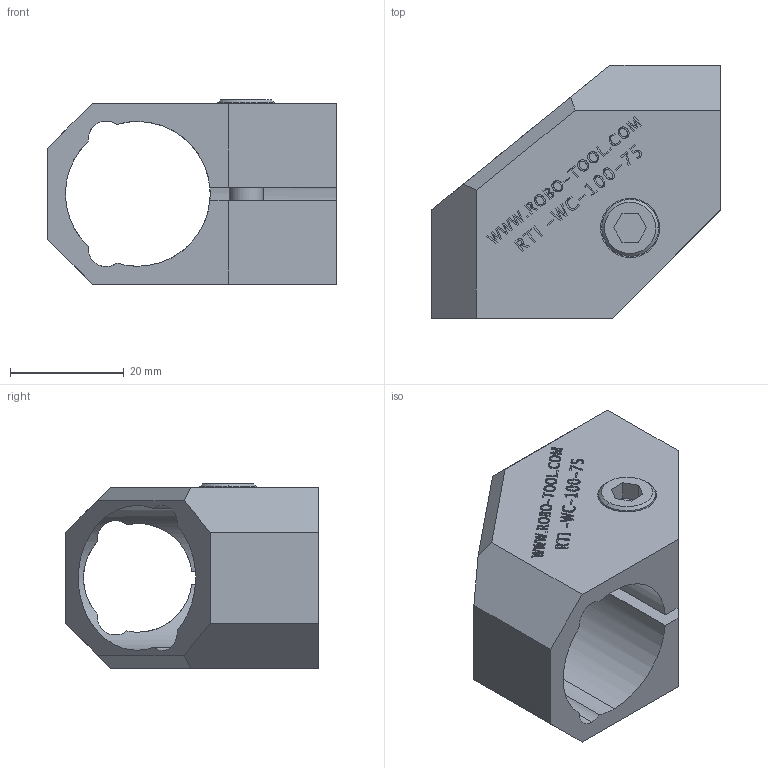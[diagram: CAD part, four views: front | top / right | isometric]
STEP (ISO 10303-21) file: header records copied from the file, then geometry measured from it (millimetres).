
FILE_DESCRIPTION (( 'STEP AP214' ), '1' );
FILE_NAME ('RTI-WC-100-75.STEP', '2013-10-22T20:24:56', ( 'user' ), ( '' ), 'SwSTEP 2.0', 'SolidWorks 2009', '' );
FILE_SCHEMA (( 'AUTOMOTIVE_DESIGN' ));
Length unit declared in the file: inch
Products named in the file (4): RTI-WC-100-75; M6 WASHER; M6 S.H.C.S._M6x25mm
Assembly tree (3 placements, depth 2):
  RTI-WC-100-75
    RTI-WC-100-75
    M6 S.H.C.S._M6x25mm
    M6 WASHER
Bounding box: 50.8 x 44.45 x 32.4 mm (x, y, z)
Volume: 26183.4 mm3; surface area: 12199.8 mm2
Topology: 3 solids, 3 shells, 375 faces, 974 edges, 648 vertices
Faces by surface type: plane 243, bspline 99, cylinder 29, cone 4
Entity records: 21475 total; most frequent: CARTESIAN_POINT 8854, ORIENTED_EDGE 1948, DIRECTION 1373, EDGE_CURVE 974, LINE 713, VECTOR 713, VERTEX_POINT 648, EDGE_LOOP 426
